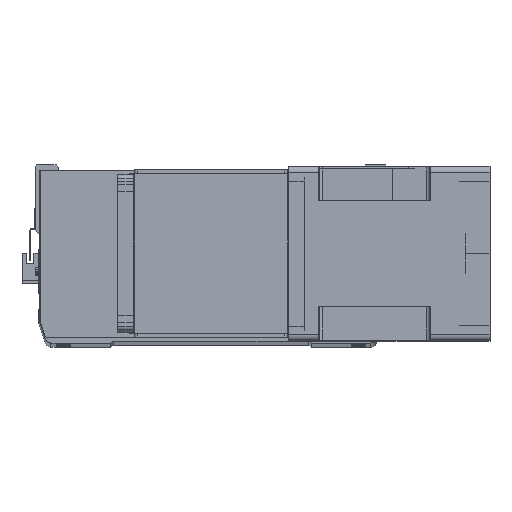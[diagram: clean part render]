
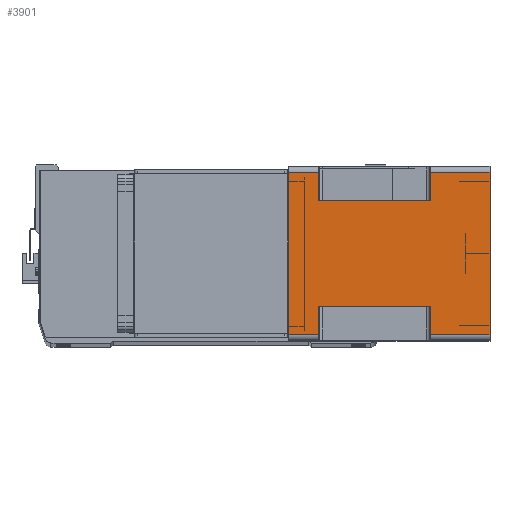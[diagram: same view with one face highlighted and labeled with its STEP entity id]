
A CAD part, top view. The second image highlights one B-rep face of the part: STEP entity #3901.
In plain terms, the highlighted planar face has unit normal (0, 0, 1) as drawn and (1, 0, 0) by its records, which use the part's own axes.
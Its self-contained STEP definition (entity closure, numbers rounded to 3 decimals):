
#625 = VERTEX_POINT ( 'NONE', #31039 ) ;
#778 = DIRECTION ( 'NONE',  ( 0., -1., 0. ) ) ;
#844 = DIRECTION ( 'NONE',  ( 0., 1., 0. ) ) ;
#1192 = DIRECTION ( 'NONE',  ( 0., -1., 0. ) ) ;
#1730 = VECTOR ( 'NONE', #25621, 1000. ) ;
#2103 = VERTEX_POINT ( 'NONE', #12911 ) ;
#2300 = ORIENTED_EDGE ( 'NONE', *, *, #7243, .T. ) ;
#2403 = CARTESIAN_POINT ( 'NONE',  ( 71., -43., -24.5 ) ) ;
#2415 = CARTESIAN_POINT ( 'NONE',  ( 71., 43., -24.5 ) ) ;
#2515 = ORIENTED_EDGE ( 'NONE', *, *, #16804, .F. ) ;
#2682 = CARTESIAN_POINT ( 'NONE',  ( 71., -66., -164. ) ) ;
#3018 = VERTEX_POINT ( 'NONE', #31610 ) ;
#3223 = VECTOR ( 'NONE', #15185, 1000. ) ;
#3822 = DIRECTION ( 'NONE',  ( 0., 0., 1. ) ) ;
#3901 = ADVANCED_FACE ( 'NONE', ( #6753 ), #22867, .T. ) ;
#4043 = VERTEX_POINT ( 'NONE', #16317 ) ;
#4354 = ORIENTED_EDGE ( 'NONE', *, *, #23738, .T. ) ;
#4935 = VECTOR ( 'NONE', #25411, 1000. ) ;
#4969 = LINE ( 'NONE', #22908, #5334 ) ;
#5334 = VECTOR ( 'NONE', #778, 1000. ) ;
#5390 = EDGE_CURVE ( 'NONE', #29604, #8205, #13564, .T. ) ;
#5431 = ORIENTED_EDGE ( 'NONE', *, *, #8356, .T. ) ;
#5860 = CARTESIAN_POINT ( 'NONE',  ( 71., 43., -164. ) ) ;
#6035 = DIRECTION ( 'NONE',  ( 0., 1., 0. ) ) ;
#6215 = DIRECTION ( 'NONE',  ( 0., 1., 0. ) ) ;
#6753 = FACE_OUTER_BOUND ( 'NONE', #19114, .T. ) ;
#7243 = EDGE_CURVE ( 'NONE', #4043, #8205, #30958, .T. ) ;
#7348 = VECTOR ( 'NONE', #21552, 1000. ) ;
#7389 = DIRECTION ( 'NONE',  ( 0., 1., 0. ) ) ;
#7427 = LINE ( 'NONE', #30330, #17908 ) ;
#8205 = VERTEX_POINT ( 'NONE', #2403 ) ;
#8356 = EDGE_CURVE ( 'NONE', #29604, #625, #4969, .T. ) ;
#8713 = CARTESIAN_POINT ( 'NONE',  ( 71., -66., -164. ) ) ;
#8972 = LINE ( 'NONE', #23995, #24764 ) ;
#9124 = VERTEX_POINT ( 'NONE', #9380 ) ;
#9216 = VERTEX_POINT ( 'NONE', #24442 ) ;
#9380 = CARTESIAN_POINT ( 'NONE',  ( 71., 43., -115.5 ) ) ;
#9781 = ORIENTED_EDGE ( 'NONE', *, *, #21954, .T. ) ;
#9857 = LINE ( 'NONE', #12817, #3223 ) ;
#10149 = VECTOR ( 'NONE', #7389, 1000. ) ;
#10403 = ORIENTED_EDGE ( 'NONE', *, *, #14803, .F. ) ;
#10523 = CARTESIAN_POINT ( 'NONE',  ( 71., 66., -115.5 ) ) ;
#11180 = ORIENTED_EDGE ( 'NONE', *, *, #12108, .T. ) ;
#11392 = ORIENTED_EDGE ( 'NONE', *, *, #26104, .F. ) ;
#12108 = EDGE_CURVE ( 'NONE', #2103, #27310, #7427, .T. ) ;
#12796 = CARTESIAN_POINT ( 'NONE',  ( 71., -66., -164. ) ) ;
#12817 = CARTESIAN_POINT ( 'NONE',  ( 71., -66., 0. ) ) ;
#12837 = EDGE_CURVE ( 'NONE', #23456, #9216, #20516, .T. ) ;
#12911 = CARTESIAN_POINT ( 'NONE',  ( 71., 66., -24.5 ) ) ;
#12918 = EDGE_CURVE ( 'NONE', #23456, #625, #25094, .T. ) ;
#13564 = LINE ( 'NONE', #31248, #17822 ) ;
#14110 = VERTEX_POINT ( 'NONE', #10523 ) ;
#14803 = EDGE_CURVE ( 'NONE', #4043, #3018, #23766, .T. ) ;
#15185 = DIRECTION ( 'NONE',  ( 0., 1., 0. ) ) ;
#16264 = LINE ( 'NONE', #23639, #30901 ) ;
#16317 = CARTESIAN_POINT ( 'NONE',  ( 71., -66., -24.5 ) ) ;
#16804 = EDGE_CURVE ( 'NONE', #3018, #27310, #9857, .T. ) ;
#17125 = ORIENTED_EDGE ( 'NONE', *, *, #12837, .T. ) ;
#17822 = VECTOR ( 'NONE', #31577, 1000. ) ;
#17908 = VECTOR ( 'NONE', #28060, 1000. ) ;
#18888 = CARTESIAN_POINT ( 'NONE',  ( 71., -66., -164. ) ) ;
#19114 = EDGE_LOOP ( 'NONE', ( #21097, #5431, #19573, #17125, #4354, #20078, #11392, #9781, #11180, #2515, #10403, #2300 ) ) ;
#19573 = ORIENTED_EDGE ( 'NONE', *, *, #12918, .F. ) ;
#20078 = ORIENTED_EDGE ( 'NONE', *, *, #24168, .T. ) ;
#20193 = VECTOR ( 'NONE', #844, 1000. ) ;
#20516 = LINE ( 'NONE', #18888, #25504 ) ;
#21097 = ORIENTED_EDGE ( 'NONE', *, *, #5390, .F. ) ;
#21100 = CARTESIAN_POINT ( 'NONE',  ( 71., 66., 0. ) ) ;
#21552 = DIRECTION ( 'NONE',  ( 0., 0., 1. ) ) ;
#21954 = EDGE_CURVE ( 'NONE', #25899, #2103, #24831, .T. ) ;
#22111 = AXIS2_PLACEMENT_3D ( 'NONE', #2682, #23178, #6035 ) ;
#22867 = PLANE ( 'NONE',  #22111 ) ;
#22908 = CARTESIAN_POINT ( 'NONE',  ( 71., -66., -115.5 ) ) ;
#22988 = CARTESIAN_POINT ( 'NONE',  ( 71., -66., -24.5 ) ) ;
#23178 = DIRECTION ( 'NONE',  ( 1., 0., 0. ) ) ;
#23456 = VERTEX_POINT ( 'NONE', #12796 ) ;
#23639 = CARTESIAN_POINT ( 'NONE',  ( 71., 43., -115.5 ) ) ;
#23738 = EDGE_CURVE ( 'NONE', #9216, #14110, #8972, .T. ) ;
#23766 = LINE ( 'NONE', #8713, #1730 ) ;
#23995 = CARTESIAN_POINT ( 'NONE',  ( 71., 66., -164. ) ) ;
#24168 = EDGE_CURVE ( 'NONE', #14110, #9124, #16264, .T. ) ;
#24442 = CARTESIAN_POINT ( 'NONE',  ( 71., 66., -164. ) ) ;
#24537 = LINE ( 'NONE', #5860, #4935 ) ;
#24764 = VECTOR ( 'NONE', #3822, 1000. ) ;
#24831 = LINE ( 'NONE', #22988, #20193 ) ;
#25094 = LINE ( 'NONE', #26490, #7348 ) ;
#25411 = DIRECTION ( 'NONE',  ( 0., 0., -1. ) ) ;
#25504 = VECTOR ( 'NONE', #6215, 1000. ) ;
#25621 = DIRECTION ( 'NONE',  ( 0., 0., 1. ) ) ;
#25899 = VERTEX_POINT ( 'NONE', #2415 ) ;
#26104 = EDGE_CURVE ( 'NONE', #25899, #9124, #24537, .T. ) ;
#26490 = CARTESIAN_POINT ( 'NONE',  ( 71., -66., -164. ) ) ;
#27310 = VERTEX_POINT ( 'NONE', #21100 ) ;
#28060 = DIRECTION ( 'NONE',  ( 0., 0., 1. ) ) ;
#29604 = VERTEX_POINT ( 'NONE', #30952 ) ;
#29928 = CARTESIAN_POINT ( 'NONE',  ( 71., -43., -24.5 ) ) ;
#30330 = CARTESIAN_POINT ( 'NONE',  ( 71., 66., -164. ) ) ;
#30901 = VECTOR ( 'NONE', #1192, 1000. ) ;
#30952 = CARTESIAN_POINT ( 'NONE',  ( 71., -43., -115.5 ) ) ;
#30958 = LINE ( 'NONE', #29928, #10149 ) ;
#31039 = CARTESIAN_POINT ( 'NONE',  ( 71., -66., -115.5 ) ) ;
#31248 = CARTESIAN_POINT ( 'NONE',  ( 71., -43., -164. ) ) ;
#31577 = DIRECTION ( 'NONE',  ( 0., 0., 1. ) ) ;
#31610 = CARTESIAN_POINT ( 'NONE',  ( 71., -66., 0. ) ) ;
